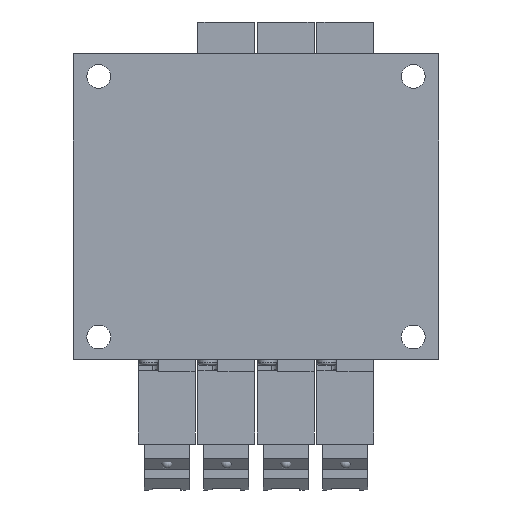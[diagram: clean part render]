
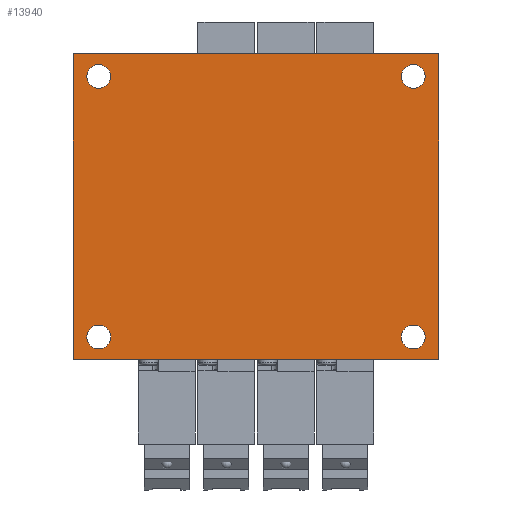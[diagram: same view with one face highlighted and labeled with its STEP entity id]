
A CAD part, front view. The second image highlights one B-rep face of the part: STEP entity #13940.
In plain terms, the highlighted planar face has unit normal (0, -1, 0).
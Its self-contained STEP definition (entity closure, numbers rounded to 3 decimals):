
#84 = LINE ( 'NONE', #16778, #3915 ) ;
#199 = FACE_OUTER_BOUND ( 'NONE', #5632, .T. ) ;
#468 = VECTOR ( 'NONE', #17106, 1000. ) ;
#598 = CARTESIAN_POINT ( 'NONE',  ( -32.25, 0., -27. ) ) ;
#613 = ORIENTED_EDGE ( 'NONE', *, *, #5477, .F. ) ;
#1382 = DIRECTION ( 'NONE',  ( 0., 0., -1. ) ) ;
#1504 = DIRECTION ( 'NONE',  ( 0., 1., 0. ) ) ;
#1506 = ORIENTED_EDGE ( 'NONE', *, *, #8679, .T. ) ;
#2006 = CARTESIAN_POINT ( 'NONE',  ( -27.75, 0., -23. ) ) ;
#2133 = CARTESIAN_POINT ( 'NONE',  ( -27.75, 0., 25.1 ) ) ;
#2791 = VERTEX_POINT ( 'NONE', #14928 ) ;
#3628 = EDGE_LOOP ( 'NONE', ( #7952 ) ) ;
#3656 = DIRECTION ( 'NONE',  ( 0., 0., 1. ) ) ;
#3720 = EDGE_CURVE ( 'NONE', #15827, #15827, #14648, .T. ) ;
#3876 = CIRCLE ( 'NONE', #16995, 2.1 ) ;
#3915 = VECTOR ( 'NONE', #15222, 1000. ) ;
#3917 = EDGE_CURVE ( 'NONE', #7205, #7205, #14898, .T. ) ;
#3933 = CIRCLE ( 'NONE', #20732, 2.1 ) ;
#4038 = FACE_BOUND ( 'NONE', #6146, .T. ) ;
#4244 = ORIENTED_EDGE ( 'NONE', *, *, #4819, .F. ) ;
#4532 = FACE_BOUND ( 'NONE', #3628, .T. ) ;
#4819 = EDGE_CURVE ( 'NONE', #9436, #2791, #84, .T. ) ;
#4898 = ORIENTED_EDGE ( 'NONE', *, *, #16447, .F. ) ;
#5477 = EDGE_CURVE ( 'NONE', #13475, #16782, #21051, .T. ) ;
#5632 = EDGE_LOOP ( 'NONE', ( #4244, #5942, #613, #4898 ) ) ;
#5760 = CARTESIAN_POINT ( 'NONE',  ( -32.25, 0., 27. ) ) ;
#5942 = ORIENTED_EDGE ( 'NONE', *, *, #16451, .F. ) ;
#6146 = EDGE_LOOP ( 'NONE', ( #1506 ) ) ;
#6441 = CARTESIAN_POINT ( 'NONE',  ( -32.25, 0., -27. ) ) ;
#6689 = LINE ( 'NONE', #18500, #19127 ) ;
#6848 = CARTESIAN_POINT ( 'NONE',  ( 27.75, 0., 23. ) ) ;
#7131 = DIRECTION ( 'NONE',  ( 1., 0., 0. ) ) ;
#7188 = AXIS2_PLACEMENT_3D ( 'NONE', #2006, #13368, #3656 ) ;
#7205 = VERTEX_POINT ( 'NONE', #7510 ) ;
#7510 = CARTESIAN_POINT ( 'NONE',  ( -27.75, 0., -20.9 ) ) ;
#7605 = AXIS2_PLACEMENT_3D ( 'NONE', #11242, #1504, #12885 ) ;
#7862 = CARTESIAN_POINT ( 'NONE',  ( 0., 0., 0. ) ) ;
#7952 = ORIENTED_EDGE ( 'NONE', *, *, #16836, .T. ) ;
#8468 = DIRECTION ( 'NONE',  ( 0., 0., 1. ) ) ;
#8679 = EDGE_CURVE ( 'NONE', #15062, #15062, #3933, .T. ) ;
#9188 = VERTEX_POINT ( 'NONE', #18514 ) ;
#9436 = VERTEX_POINT ( 'NONE', #18255 ) ;
#9485 = PLANE ( 'NONE',  #10568 ) ;
#9682 = CARTESIAN_POINT ( 'NONE',  ( 27.75, 0., -23. ) ) ;
#10340 = ORIENTED_EDGE ( 'NONE', *, *, #3720, .T. ) ;
#10568 = AXIS2_PLACEMENT_3D ( 'NONE', #7862, #11128, #1382 ) ;
#11128 = DIRECTION ( 'NONE',  ( 0., -1., 0. ) ) ;
#11242 = CARTESIAN_POINT ( 'NONE',  ( -27.75, 0., 23. ) ) ;
#11311 = DIRECTION ( 'NONE',  ( 0., 0., 1. ) ) ;
#11318 = EDGE_LOOP ( 'NONE', ( #11377 ) ) ;
#11377 = ORIENTED_EDGE ( 'NONE', *, *, #3917, .T. ) ;
#11490 = CARTESIAN_POINT ( 'NONE',  ( 27.75, 0., 25.1 ) ) ;
#11521 = LINE ( 'NONE', #598, #15323 ) ;
#12885 = DIRECTION ( 'NONE',  ( 0., 0., 1. ) ) ;
#13173 = FACE_BOUND ( 'NONE', #11318, .T. ) ;
#13368 = DIRECTION ( 'NONE',  ( 0., 1., 0. ) ) ;
#13475 = VERTEX_POINT ( 'NONE', #6441 ) ;
#13940 = ADVANCED_FACE ( 'NONE', ( #16462, #13173, #4532, #4038, #199 ), #9485, .T. ) ;
#14648 = CIRCLE ( 'NONE', #7605, 2.1 ) ;
#14898 = CIRCLE ( 'NONE', #7188, 2.1 ) ;
#14928 = CARTESIAN_POINT ( 'NONE',  ( 32.25, 0., -27. ) ) ;
#15062 = VERTEX_POINT ( 'NONE', #11490 ) ;
#15222 = DIRECTION ( 'NONE',  ( 0., 0., -1. ) ) ;
#15323 = VECTOR ( 'NONE', #16868, 1000. ) ;
#15827 = VERTEX_POINT ( 'NONE', #2133 ) ;
#16447 = EDGE_CURVE ( 'NONE', #2791, #13475, #11521, .T. ) ;
#16451 = EDGE_CURVE ( 'NONE', #16782, #9436, #6689, .T. ) ;
#16462 = FACE_BOUND ( 'NONE', #18696, .T. ) ;
#16778 = CARTESIAN_POINT ( 'NONE',  ( 32.25, 0., 27. ) ) ;
#16782 = VERTEX_POINT ( 'NONE', #17633 ) ;
#16836 = EDGE_CURVE ( 'NONE', #9188, #9188, #3876, .T. ) ;
#16868 = DIRECTION ( 'NONE',  ( -1., 0., 0. ) ) ;
#16995 = AXIS2_PLACEMENT_3D ( 'NONE', #9682, #21049, #11311 ) ;
#17106 = DIRECTION ( 'NONE',  ( 0., 0., 1. ) ) ;
#17633 = CARTESIAN_POINT ( 'NONE',  ( -32.25, 0., 27. ) ) ;
#18213 = DIRECTION ( 'NONE',  ( 0., 1., 0. ) ) ;
#18255 = CARTESIAN_POINT ( 'NONE',  ( 32.25, 0., 27. ) ) ;
#18500 = CARTESIAN_POINT ( 'NONE',  ( -32.25, 0., 27. ) ) ;
#18514 = CARTESIAN_POINT ( 'NONE',  ( 27.75, 0., -20.9 ) ) ;
#18696 = EDGE_LOOP ( 'NONE', ( #10340 ) ) ;
#19127 = VECTOR ( 'NONE', #7131, 1000. ) ;
#20732 = AXIS2_PLACEMENT_3D ( 'NONE', #6848, #18213, #8468 ) ;
#21049 = DIRECTION ( 'NONE',  ( 0., 1., 0. ) ) ;
#21051 = LINE ( 'NONE', #5760, #468 ) ;
